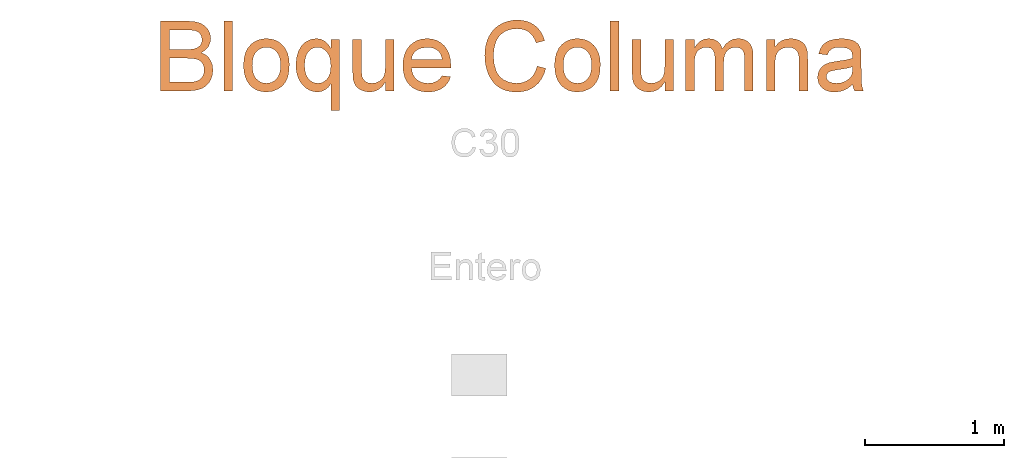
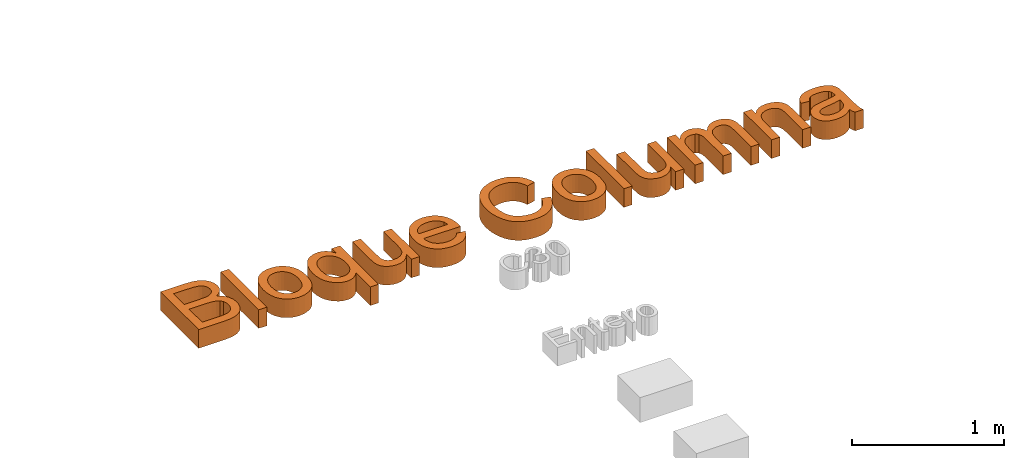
# One storey, part 4 of 8: 1 proxy.
"""IFC2X3 building model written with IfcOpenShell, lengths in metres."""

from ifc_helpers import new_model, entity, si_unit, converted_unit, derived_unit, direction, frame, frame_2d, origin, origin_2d_with_axis, place, context, subcontext, project, spatial, polyline, rectangle, outline, extrude, type_object, element, save


model = new_model("IFC2X3")

# Units and contexts
model_context = context("Model", 3, precision=1e-05, world=origin(), true_north=direction((6.12303176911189e-17, 1.0)))
body_context = subcontext(model_context, "Body", "Model", "MODEL_VIEW")
ifc_project = project(units=[si_unit("LENGTHUNIT", "METRE"), si_unit("AREAUNIT", "SQUARE_METRE"), si_unit("VOLUMEUNIT", "CUBIC_METRE"), converted_unit("PLANEANGLEUNIT", "DEGREE", entity("IfcRatioMeasure", 0.0174532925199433), si_unit("PLANEANGLEUNIT", "RADIAN"), dimensions=[0, 0, 0, 0, 0, 0, 0]), si_unit("MASSUNIT", "GRAM", prefix="KILO"), derived_unit("MASSDENSITYUNIT", [(si_unit("MASSUNIT", "GRAM", prefix="KILO"), 1), (si_unit("LENGTHUNIT", "METRE"), -3)]), derived_unit("MOMENTOFINERTIAUNIT", [(si_unit("LENGTHUNIT", "METRE"), 4)]), si_unit("TIMEUNIT", "SECOND"), si_unit("FREQUENCYUNIT", "HERTZ"), si_unit("THERMODYNAMICTEMPERATUREUNIT", "DEGREE_CELSIUS"), derived_unit("THERMALTRANSMITTANCEUNIT", [(si_unit("MASSUNIT", "GRAM", prefix="KILO"), 1), (si_unit("THERMODYNAMICTEMPERATUREUNIT", "KELVIN"), -1), (si_unit("TIMEUNIT", "SECOND"), -3)]), derived_unit("VOLUMETRICFLOWRATEUNIT", [(si_unit("LENGTHUNIT", "METRE"), 3), (si_unit("TIMEUNIT", "SECOND"), -1)]), si_unit("ELECTRICCURRENTUNIT", "AMPERE"), si_unit("ELECTRICVOLTAGEUNIT", "VOLT"), si_unit("POWERUNIT", "WATT"), si_unit("FORCEUNIT", "NEWTON", prefix="KILO"), si_unit("ILLUMINANCEUNIT", "LUX"), si_unit("LUMINOUSFLUXUNIT", "LUMEN"), si_unit("LUMINOUSINTENSITYUNIT", "CANDELA"), derived_unit("USERDEFINED", [(si_unit("MASSUNIT", "GRAM", prefix="KILO"), -1), (si_unit("LENGTHUNIT", "METRE"), -2), (si_unit("TIMEUNIT", "SECOND"), 3), (si_unit("LUMINOUSFLUXUNIT", "LUMEN"), 1)]), derived_unit("LINEARVELOCITYUNIT", [(si_unit("LENGTHUNIT", "METRE"), 1), (si_unit("TIMEUNIT", "SECOND"), -1)]), si_unit("PRESSUREUNIT", "PASCAL"), derived_unit("USERDEFINED", [(si_unit("LENGTHUNIT", "METRE"), -2), (si_unit("MASSUNIT", "GRAM", prefix="KILO"), 1), (si_unit("TIMEUNIT", "SECOND"), -2)]), derived_unit("LINEARFORCEUNIT", [(si_unit("MASSUNIT", "GRAM", prefix="KILO"), 1), (si_unit("LENGTHUNIT", "METRE"), 1), (si_unit("TIMEUNIT", "SECOND"), -2), (si_unit("LENGTHUNIT", "METRE"), -1)]), derived_unit("PLANARFORCEUNIT", [(si_unit("MASSUNIT", "GRAM", prefix="KILO"), 1), (si_unit("LENGTHUNIT", "METRE"), 1), (si_unit("TIMEUNIT", "SECOND"), -2), (si_unit("LENGTHUNIT", "METRE"), -2)])], contexts=[model_context])

# Site, building, storey
site_placement = place(None, origin())
site = spatial("IfcSite", under=ifc_project, at=site_placement, Name="Default", CompositionType="ELEMENT")
building_placement = place(site_placement, origin())
building = spatial("IfcBuilding", under=site, at=building_placement, CompositionType="ELEMENT")
storey_placement = place(building_placement, origin())
storey = spatial("IfcBuildingStorey", under=building, at=storey_placement, Name="Nivel 1", CompositionType="ELEMENT", Elevation=0.0)

# Proxy
building_element_proxy_type = type_object("IfcBuildingElementProxyType", Name="Texto de modelo:Título", PredefinedType="NOTDEFINED")
proxy_placement = place(storey_placement, origin())
element("IfcBuildingElementProxy", 1, at=proxy_placement, inside=storey, type_object=building_element_proxy_type, Name="Texto de modelo:Título", ObjectType="Texto de modelo:Título", context=body_context, shape_type="SweptSolid", body=[
    extrude(outline(polyline([(-0.292681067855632, -0.243581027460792), (-0.10248607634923, -0.243581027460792), (-0.0585088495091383, -0.241419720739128), (-0.0219812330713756, -0.234935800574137), (0.00807779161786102, -0.224236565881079), (0.0326492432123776, -0.209429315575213), (0.0527141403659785, -0.188981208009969), (0.0692535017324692, -0.161359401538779), (0.0803359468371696, -0.128878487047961), (0.0840300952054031, -0.0938530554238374), (0.0786191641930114, -0.0518225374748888), (0.0623863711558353, -0.015739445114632), (0.0504033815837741, -0.000395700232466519), (0.0360981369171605, 0.0125261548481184), (0.0194706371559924, 0.0230261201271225), (0.000520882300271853, 0.0311041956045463), (0.0303039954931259, 0.0506785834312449), (0.051472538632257, 0.0755566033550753), (0.064118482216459, 0.103990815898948), (0.0683337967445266, 0.134233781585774), (0.0633214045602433, 0.167097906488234), (0.0482842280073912, 0.198490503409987), (0.024402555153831, 0.22517727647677), (-0.00714332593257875, 0.243923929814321), (-0.0483001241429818, 0.255006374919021), (-0.101014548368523, 0.258700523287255), (-0.292681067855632, 0.258700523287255), (-0.292681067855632, -0.243581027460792)]), holes=[polyline([(-0.229895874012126, 0.0546486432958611), (-0.229895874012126, 0.195915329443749), (-0.12394585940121, 0.195915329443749), (-0.0752014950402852, 0.194275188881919), (-0.0432570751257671, 0.18935476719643), (-0.0224410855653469, 0.180019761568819), (-0.00708201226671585, 0.165135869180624), (0.00239094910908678, 0.146067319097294), (0.00554860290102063, 0.124178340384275), (0.00216102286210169, 0.10163023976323), (-0.00800171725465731, 0.083282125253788), (-0.0248476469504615, 0.069348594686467), (-0.0482847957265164, 0.0600442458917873), (-0.0751401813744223, 0.0559975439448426), (-0.115239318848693, 0.0546486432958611), (-0.229895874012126, 0.0546486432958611)]), polyline([(-0.229895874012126, -0.180795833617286), (-0.229895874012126, -0.00813655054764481), (-0.107268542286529, -0.00813655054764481), (-0.0625555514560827, -0.0102365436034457), (-0.0297067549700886, -0.0165365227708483), (-0.00651486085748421, -0.0280175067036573), (0.00922742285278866, -0.0456605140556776), (0.01824053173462, -0.0682239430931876), (0.0212449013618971, -0.0944661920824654), (0.0186850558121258, -0.117060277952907), (0.0110055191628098, -0.136772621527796), (-0.000644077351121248, -0.152882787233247), (-0.0151141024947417, -0.16467033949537), (-0.0329103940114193, -0.172901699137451), (-0.0545387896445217, -0.178343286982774), (-0.101137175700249, -0.180795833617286), (-0.229895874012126, -0.180795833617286)])]), frame((4.89267231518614, 0.973468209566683, 0.0)), (0.0, 0.0, 1.0), 0.15),
    extrude(rectangle(XDim=0.062785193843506, YDim=0.502281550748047, at=origin_2d_with_axis()), frame((5.08657649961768, 0.981027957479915, 0.0)), (0.0, 0.0, 1.0), 0.15),
    extrude(outline(polyline([(-0.0131957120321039, -0.170548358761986), (0.0307665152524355, -0.170548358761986), (0.0696520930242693, -0.16451238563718), (0.103461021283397, -0.152440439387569), (0.132193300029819, -0.134332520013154), (0.155411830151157, -0.111243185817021), (0.172679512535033, -0.0842269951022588), (0.183996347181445, -0.0532839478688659), (0.189362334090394, -0.0184140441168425), (0.186618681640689, 0.0261717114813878), (0.172415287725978, 0.0679068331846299), (0.161237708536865, 0.0869767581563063), (0.14763823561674, 0.103876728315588), (0.131616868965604, 0.118606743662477), (0.113173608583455, 0.13116680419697), (0.0915479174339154, 0.141494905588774), (0.0659792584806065, 0.149529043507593), (0.00301303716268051, 0.158715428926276), (-0.0385534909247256, 0.158529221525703), (-0.0757586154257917, 0.152292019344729), (-0.108602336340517, 0.140003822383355), (-0.137084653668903, 0.12166463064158), (-0.160392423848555, 0.0984428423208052), (-0.177712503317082, 0.0715068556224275), (-0.189044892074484, 0.0408566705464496), (-0.194389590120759, 0.00649228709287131), (-0.1938749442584, -0.0249843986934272), (-0.188105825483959, -0.0543136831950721), (-0.177082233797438, -0.0814955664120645), (-0.160804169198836, -0.106530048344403), (-0.134450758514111, -0.132057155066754), (-0.101064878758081, -0.151235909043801), (-0.060646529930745, -0.164066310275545), (-0.0131957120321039, -0.170548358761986)]), holes=[polyline([(-0.00925174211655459, -0.107887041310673), (-0.039516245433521, -0.104102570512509), (-0.0654537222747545, -0.0969584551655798), (-0.0870641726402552, -0.0864546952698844), (-0.104347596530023, -0.0725912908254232), (-0.117399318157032, -0.0562452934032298), (-0.126314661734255, -0.0382937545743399), (-0.131093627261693, -0.0187366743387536), (-0.131736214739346, 0.00242594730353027), (-0.128372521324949, 0.023071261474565), (-0.121092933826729, 0.0416882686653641), (-0.109897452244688, 0.0582769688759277), (-0.0947860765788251, 0.0728373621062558), (-0.0759345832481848, 0.0844361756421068), (-0.0535187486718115, 0.092140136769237), (-0.0275385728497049, 0.0959492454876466), (0.00200594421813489, 0.0958635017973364), (0.0329855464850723, 0.0920326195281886), (0.0594775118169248, 0.08485251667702), (0.0814818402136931, 0.0743231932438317), (0.0989985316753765, 0.0604446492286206), (0.112185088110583, 0.0441052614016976), (0.121199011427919, 0.0261934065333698), (0.126040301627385, 0.00670908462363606), (0.126708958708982, -0.0143477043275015), (0.123328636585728, -0.0352492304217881), (0.116038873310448, -0.0540230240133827), (0.104839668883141, -0.0706690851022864), (0.0897310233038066, -0.0851874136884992), (0.0707470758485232, -0.0966969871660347), (0.0479219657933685, -0.104316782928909), (0.0212556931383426, -0.108046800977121), (-0.00925174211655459, -0.107887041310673)])]), frame((5.36749551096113, 0.912196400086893, 0.0), z_axis=(0.0, 0.0, 1.0), x_axis=(0.0647659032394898, -0.997900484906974, 0.0)), (0.0, 0.0, 1.0), 0.15),
    extrude(outline(polyline([(0.113122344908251, -0.311998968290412), (0.175907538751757, -0.311998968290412), (0.175907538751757, 0.198130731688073), (0.113122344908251, 0.198130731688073), (0.113122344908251, 0.135590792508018), (0.0926742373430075, 0.166385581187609), (0.0687312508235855, 0.188381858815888), (0.0412933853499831, 0.201579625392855), (0.0103606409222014, 0.205978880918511), (-0.0296465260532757, 0.200307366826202), (-0.0662814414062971, 0.183292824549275), (-0.0827211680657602, 0.170616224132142), (-0.0970915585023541, 0.155272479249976), (-0.119624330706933, 0.11658355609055), (-0.133419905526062, 0.0697092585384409), (-0.138018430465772, 0.0171327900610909), (-0.135121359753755, -0.0259975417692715), (-0.126430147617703, -0.0642764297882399), (-0.111944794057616, -0.0977038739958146), (-0.0916652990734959, -0.126279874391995), (-0.0673774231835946, -0.149161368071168), (-0.0408669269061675, -0.165505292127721), (-0.0121338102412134, -0.175311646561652), (0.0188219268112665, -0.178580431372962), (0.046842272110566, -0.174441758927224), (0.0732684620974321, -0.162025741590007), (0.0960464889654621, -0.143355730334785), (0.113122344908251, -0.120455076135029), (0.113122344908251, -0.311998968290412)]), holes=[polyline([(-0.0752332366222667, 0.0136992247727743), (-0.0735586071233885, 0.0447967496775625), (-0.068534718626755, 0.0715026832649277), (-0.0601615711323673, 0.09381702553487), (-0.0484391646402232, 0.111739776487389), (-0.0343101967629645, 0.125500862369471), (-0.018717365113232, 0.135330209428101), (-0.00166066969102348, 0.141227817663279), (0.0168598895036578, 0.143193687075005), (0.0356103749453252, 0.141082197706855), (0.0531115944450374, 0.134747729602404), (0.0693635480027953, 0.124190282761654), (0.0843662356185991, 0.109409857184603), (0.0969470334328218, 0.0904447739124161), (0.105933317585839, 0.0673333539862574), (0.111325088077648, 0.0400755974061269), (0.113122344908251, 0.0086715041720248), (0.111417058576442, -0.0207743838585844), (0.106301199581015, -0.04620422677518), (0.0977747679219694, -0.0676180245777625), (0.0858377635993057, -0.0850157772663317), (0.0715401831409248, -0.0984817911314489), (0.0559320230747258, -0.108100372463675), (0.0390132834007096, -0.113871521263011), (0.0207839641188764, -0.115795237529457), (0.00174223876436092, -0.113771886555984), (-0.0158969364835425, -0.107701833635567), (-0.032133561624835, -0.0975850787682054), (-0.0469676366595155, -0.0834216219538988), (-0.0593338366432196, -0.0652114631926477), (-0.0681668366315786, -0.0429546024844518), (-0.0734666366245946, -0.0166510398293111), (-0.0752332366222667, 0.0136992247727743)])]), frame((5.71118018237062, 0.900619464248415, 0.0)), (0.0, 0.0, 1.0), 0.15),
    extrude(outline(polyline([(0.099374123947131, -0.10269783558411), (0.162159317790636, -0.10269783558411), (0.162159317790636, 0.266165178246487), (0.099374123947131, 0.266165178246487), (0.099374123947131, 0.0742534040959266), (0.0968296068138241, 0.0338323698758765), (0.0891960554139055, 0.00429451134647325), (0.0754464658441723, -0.0172725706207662), (0.0545538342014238, -0.0337812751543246), (0.0292159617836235, -0.0442659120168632), (0.00213064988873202, -0.0477607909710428), (-0.0234831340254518, -0.0443425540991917), (-0.044651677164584, -0.0340878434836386), (-0.060332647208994, -0.0178550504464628), (-0.0694837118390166, 0.00349743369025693), (-0.0732851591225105, 0.0675089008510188), (-0.0732851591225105, 0.266165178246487), (-0.136070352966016, 0.266165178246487), (-0.136070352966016, 0.0379557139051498), (-0.132391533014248, -0.0204148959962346), (-0.125018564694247, -0.0456454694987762), (-0.113690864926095, -0.0666454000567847), (-0.0968602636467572, -0.083935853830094), (-0.072978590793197, -0.0980379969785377), (-0.0445137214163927, -0.107418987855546), (-0.0139335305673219, -0.110545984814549), (0.0200035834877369, -0.106093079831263), (0.0502005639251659, -0.0927343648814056), (0.0766574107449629, -0.0704698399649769), (0.099374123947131, -0.0392995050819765), (0.099374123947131, -0.10269783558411)])), frame((6.11733586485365, 0.832585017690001, 0.0)), (0.0, 0.0, 1.0), 0.15),
    extrude(outline(polyline([(-0.0285819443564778, -0.11250239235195), (-0.0578029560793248, -0.167249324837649), (-0.0322328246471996, -0.173818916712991), (-0.00713898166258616, -0.176000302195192), (0.0174785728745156, -0.173793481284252), (0.0416198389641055, -0.16719845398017), (0.0648944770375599, -0.156182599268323), (0.0869121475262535, -0.14071329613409), (0.107672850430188, -0.120790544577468), (0.127176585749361, -0.0964143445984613), (0.147184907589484, -0.0628437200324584), (0.159666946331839, -0.0291392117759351), (0.164622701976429, 0.00469918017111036), (0.16205217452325, 0.0386714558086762), (0.151934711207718, 0.0717021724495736), (0.134249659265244, 0.102715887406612), (0.10899701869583, 0.131712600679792), (0.0761767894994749, 0.158692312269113), (0.0386809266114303, 0.181565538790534), (0.00190165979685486, 0.196468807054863), (-0.0341610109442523, 0.203402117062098), (-0.0695070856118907, 0.202365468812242), (-0.102928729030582, 0.194014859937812), (-0.133218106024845, 0.179006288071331), (-0.160375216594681, 0.157339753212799), (-0.184400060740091, 0.129015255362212), (-0.202515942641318, 0.0979595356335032), (-0.213436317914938, 0.0659991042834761), (-0.217161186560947, 0.0331339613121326), (-0.213690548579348, -0.00063589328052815), (-0.202780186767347, -0.0339331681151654), (-0.184185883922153, -0.0653805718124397), (-0.157907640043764, -0.0949781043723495), (-0.12394545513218, -0.122725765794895), (-0.10993105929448, -0.132218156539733), (0.0533469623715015, 0.0979071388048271), (0.0716760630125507, 0.080443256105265), (0.0853873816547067, 0.0618484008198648), (0.0944809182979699, 0.0421225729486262), (0.0989566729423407, 0.0212657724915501), (0.0991008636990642, 5.22501907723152e-05), (0.0951997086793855, -0.020743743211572), (0.0872532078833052, -0.0411222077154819), (0.0752613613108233, -0.0610831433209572), (0.0532495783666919, -0.0864379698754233), (0.028938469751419, -0.103695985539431), (0.00182798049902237, -0.11250239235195), (-0.0285819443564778, -0.11250239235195)]), holes=[polyline([(0.00214133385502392, 0.134238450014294), (-0.125018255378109, -0.0449812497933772), (-0.147157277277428, -0.0188609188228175), (-0.156876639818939, 0.00844625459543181), (-0.157470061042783, 0.0298610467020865), (-0.153697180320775, 0.0510722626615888), (-0.145557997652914, 0.0720799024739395), (-0.133052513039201, 0.0928839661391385), (-0.103774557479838, 0.124003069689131), (-0.0871344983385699, 0.134773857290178), (-0.0691603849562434, 0.142352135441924), (-0.050723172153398, 0.146331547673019), (-0.0326938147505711, 0.146305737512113), (-0.015072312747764, 0.142274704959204), (0.00214133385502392, 0.134238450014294)])]), frame((6.51578533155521, 0.881551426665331, 0.0), z_axis=(0.0, 0.0, -1.0), x_axis=(-0.578660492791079, -0.81556853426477, 0.0)), (0.0, 0.0, -1.0), 0.15),
    extrude(outline(polyline([(0.0277342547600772, -0.18675222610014), (0.0253192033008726, -0.251545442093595), (0.0662863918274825, -0.250788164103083), (0.103708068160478, -0.244672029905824), (0.137584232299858, -0.233197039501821), (0.167914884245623, -0.216363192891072), (0.194290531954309, -0.194632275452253), (0.216301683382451, -0.168466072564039), (0.233948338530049, -0.13786458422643), (0.247230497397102, -0.102827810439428), (0.256187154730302, -0.0655465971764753), (0.260121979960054, -0.0306797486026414), (0.259034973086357, 0.00177273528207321), (0.252926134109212, 0.0318108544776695), (0.24210726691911, 0.0597295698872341), (0.226890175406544, 0.0858238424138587), (0.207274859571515, 0.110093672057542), (0.183261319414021, 0.132539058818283), (0.156028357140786, 0.152660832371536), (0.126754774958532, 0.169959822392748), (0.0954405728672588, 0.184436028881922), (0.0620857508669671, 0.196089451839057), (0.0252628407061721, 0.205121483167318), (-0.0102269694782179, 0.209877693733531), (-0.044383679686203, 0.210358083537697), (-0.0772072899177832, 0.206562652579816), (-0.108133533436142, 0.198627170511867), (-0.136598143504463, 0.186687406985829), (-0.162601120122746, 0.170743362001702), (-0.186142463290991, 0.150795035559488), (-0.206839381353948, 0.127644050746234), (-0.224309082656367, 0.102092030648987), (-0.238551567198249, 0.0741389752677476), (-0.249566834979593, 0.0437848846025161), (-0.257477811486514, 0.00867123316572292), (-0.259851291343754, -0.0249814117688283), (-0.256687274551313, -0.0571730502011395), (-0.24798576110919, -0.0879036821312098), (-0.234053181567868, -0.116618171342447), (-0.215195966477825, -0.142761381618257), (-0.191414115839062, -0.166333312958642), (-0.162707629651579, -0.1873339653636), (-0.130442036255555, -0.131434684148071), (-0.151281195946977, -0.1149093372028), (-0.168106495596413, -0.0975006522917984), (-0.180917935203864, -0.0792086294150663), (-0.18971551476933, -0.0600332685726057), (-0.194744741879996, -0.0398054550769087), (-0.196251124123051, -0.0183560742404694), (-0.194234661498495, 0.00431487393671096), (-0.188695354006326, 0.0282073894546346), (-0.1790441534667, 0.0547214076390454), (-0.166862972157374, 0.0779705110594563), (-0.152151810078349, 0.0979546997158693), (-0.134910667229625, 0.114673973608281), (-0.115721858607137, 0.128025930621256), (-0.0951676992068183, 0.137908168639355), (-0.07324818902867, 0.144320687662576), (-0.0499633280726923, 0.14726348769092), (-0.0024948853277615, 0.145643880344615), (0.0440402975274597, 0.135953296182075), (0.0982756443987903, 0.114851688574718), (0.1422846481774, 0.0869125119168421), (0.15995690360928, 0.0703870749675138), (0.174077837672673, 0.0521687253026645), (0.184647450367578, 0.0322574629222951), (0.191665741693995, 0.0106532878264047), (0.196203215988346, -0.0341872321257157), (0.188845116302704, -0.0789062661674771), (0.17918522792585, -0.104510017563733), (0.166417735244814, -0.126908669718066), (0.150542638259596, -0.146102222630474), (0.131559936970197, -0.162090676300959), (0.109668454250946, -0.17442145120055), (0.0850670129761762, -0.182641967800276), (0.0577556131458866, -0.18675222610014), (0.0277342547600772, -0.18675222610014)])), frame((7.13654516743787, 0.988338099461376, 0.0), z_axis=(0.0, 0.0, -1.0), x_axis=(-0.285543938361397, -0.958365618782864, 0.0)), (0.0, 0.0, -1.0), 0.15),
    extrude(outline(polyline([(-0.0131957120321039, -0.170548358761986), (0.0307665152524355, -0.170548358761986), (0.0696520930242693, -0.16451238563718), (0.103461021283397, -0.152440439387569), (0.132193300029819, -0.134332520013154), (0.155411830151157, -0.111243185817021), (0.172679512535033, -0.0842269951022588), (0.183996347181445, -0.0532839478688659), (0.189362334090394, -0.0184140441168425), (0.186618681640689, 0.0261717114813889), (0.172415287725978, 0.0679068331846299), (0.161237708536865, 0.0869767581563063), (0.14763823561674, 0.103876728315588), (0.131616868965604, 0.118606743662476), (0.113173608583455, 0.13116680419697), (0.0915479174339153, 0.141494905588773), (0.0659792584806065, 0.149529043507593), (0.00301303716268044, 0.158715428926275), (-0.0385534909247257, 0.158529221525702), (-0.0757586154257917, 0.152292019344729), (-0.108602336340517, 0.140003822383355), (-0.137084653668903, 0.12166463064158), (-0.160392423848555, 0.0984428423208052), (-0.177712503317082, 0.0715068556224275), (-0.189044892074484, 0.0408566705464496), (-0.194389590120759, 0.00649228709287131), (-0.1938749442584, -0.0249843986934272), (-0.188105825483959, -0.0543136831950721), (-0.177082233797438, -0.0814955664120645), (-0.160804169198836, -0.106530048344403), (-0.134450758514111, -0.132057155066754), (-0.101064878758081, -0.151235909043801), (-0.060646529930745, -0.164066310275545), (-0.0131957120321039, -0.170548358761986)]), holes=[polyline([(-0.00925174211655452, -0.107887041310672), (-0.039516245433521, -0.104102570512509), (-0.0654537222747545, -0.0969584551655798), (-0.0870641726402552, -0.0864546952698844), (-0.104347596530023, -0.0725912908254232), (-0.117399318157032, -0.0562452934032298), (-0.126314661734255, -0.0382937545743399), (-0.131093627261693, -0.0187366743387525), (-0.131736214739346, 0.00242594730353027), (-0.128372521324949, 0.023071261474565), (-0.121092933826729, 0.0416882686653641), (-0.109897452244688, 0.0582769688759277), (-0.0947860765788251, 0.0728373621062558), (-0.0759345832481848, 0.0844361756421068), (-0.0535187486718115, 0.092140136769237), (-0.0275385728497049, 0.0959492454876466), (0.00200594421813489, 0.0958635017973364), (0.0329855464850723, 0.0920326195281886), (0.0594775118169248, 0.08485251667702), (0.081481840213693, 0.0743231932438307), (0.0989985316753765, 0.0604446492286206), (0.112185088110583, 0.0441052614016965), (0.121199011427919, 0.0261934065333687), (0.126040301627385, 0.00670908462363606), (0.126708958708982, -0.0143477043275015), (0.123328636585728, -0.035249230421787), (0.116038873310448, -0.0540230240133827), (0.104839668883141, -0.0706690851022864), (0.0897310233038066, -0.0851874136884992), (0.0707470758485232, -0.0966969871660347), (0.0479219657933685, -0.104316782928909), (0.0212556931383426, -0.108046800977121), (-0.00925174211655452, -0.107887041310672)])]), frame((7.60421804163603, 0.912196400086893, 0.0), z_axis=(0.0, 0.0, 1.0), x_axis=(0.0647659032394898, -0.997900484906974, 0.0)), (0.0, 0.0, 1.0), 0.15),
    extrude(rectangle(XDim=0.0627851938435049, YDim=0.502281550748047, at=frame_2d((-5.41233724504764e-16, 0.0), x_axis=(1.0, 0.0))), frame((7.86482132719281, 0.981027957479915, 0.0)), (0.0, 0.0, 1.0), 0.15),
    extrude(outline(polyline([(0.0993741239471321, -0.10269783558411), (0.162159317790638, -0.10269783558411), (0.162159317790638, 0.266165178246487), (0.0993741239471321, 0.266165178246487), (0.0993741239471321, 0.0742534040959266), (0.0968296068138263, 0.0338323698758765), (0.0891960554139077, 0.00429451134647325), (0.0754464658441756, -0.0172725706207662), (0.054553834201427, -0.0337812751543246), (0.0292159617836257, -0.0442659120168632), (0.00213064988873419, -0.0477607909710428), (-0.0234831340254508, -0.0443425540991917), (-0.0446516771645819, -0.0340878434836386), (-0.0603326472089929, -0.0178550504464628), (-0.0694837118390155, 0.00349743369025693), (-0.0732851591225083, 0.0675089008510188), (-0.0732851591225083, 0.266165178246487), (-0.136070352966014, 0.266165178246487), (-0.136070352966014, 0.0379557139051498), (-0.132391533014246, -0.0204148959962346), (-0.125018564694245, -0.0456454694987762), (-0.113690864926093, -0.0666454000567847), (-0.096860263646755, -0.083935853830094), (-0.0729785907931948, -0.0980379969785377), (-0.0445137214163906, -0.107418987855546), (-0.0139335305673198, -0.110545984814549), (0.0200035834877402, -0.106093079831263), (0.0502005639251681, -0.0927343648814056), (0.0766574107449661, -0.0704698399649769), (0.0993741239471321, -0.0392995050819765), (0.0993741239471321, -0.10269783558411)])), frame((8.12646206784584, 0.832585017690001, 0.0)), (0.0, 0.0, 1.0), 0.15),
    extrude(outline(polyline([(-0.26520740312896, -0.274598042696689), (-0.202422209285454, -0.274598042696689), (-0.202422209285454, -0.0885723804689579), (-0.200030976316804, -0.0453769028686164), (-0.192857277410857, -0.013647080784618), (-0.180349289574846, 0.00922291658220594), (-0.161955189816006, 0.0258389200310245), (-0.13966767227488, 0.0359556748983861), (-0.115479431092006, 0.03932792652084), (-0.0870145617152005, 0.0342695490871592), (-0.0762655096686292, 0.027946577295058), (-0.0678387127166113, 0.0190944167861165), (-0.0569402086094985, -0.00622812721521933), (-0.0533073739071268, -0.0417287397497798), (-0.0533073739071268, -0.274598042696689), (0.00947781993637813, -0.274598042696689), (0.00947781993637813, -0.0663768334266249), (0.011014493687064, -0.0405561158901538), (0.0156245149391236, -0.0185215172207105), (0.023307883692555, -0.000273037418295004), (0.0340645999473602, 0.0141893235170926), (0.0471435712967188, 0.0251874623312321), (0.0617937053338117, 0.0330432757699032), (0.0780150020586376, 0.0377567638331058), (0.0958074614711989, 0.03932792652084), (0.115075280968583, 0.0368753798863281), (0.131675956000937, 0.0295177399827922), (0.144582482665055, 0.0181593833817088), (0.152767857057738, 0.00370468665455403), (0.157136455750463, -0.0174025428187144), (0.158592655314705, -0.0487184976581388), (0.158592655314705, -0.274598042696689), (0.221377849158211, -0.274598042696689), (0.221377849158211, -0.0217404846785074), (0.219580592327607, 0.00778587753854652), (0.214188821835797, 0.0332118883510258), (0.205202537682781, 0.0545375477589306), (0.192621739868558, 0.0717628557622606), (0.176707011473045, 0.0850410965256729), (0.15771893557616, 0.0945255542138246), (0.135657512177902, 0.100216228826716), (0.110522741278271, 0.102113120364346), (0.0779805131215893, 0.0975529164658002), (0.0486572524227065, 0.0838723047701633), (0.0225529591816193, 0.0610712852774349), (-0.000332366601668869, 0.0291498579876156), (-0.0140053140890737, 0.0598833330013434), (-0.0349132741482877, 0.08292194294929), (-0.0629029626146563, 0.0973153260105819), (-0.0978210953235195, 0.102113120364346), (-0.130409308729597, 0.0974072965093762), (-0.159257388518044, 0.0832898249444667), (-0.183537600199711, 0.0614468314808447), (-0.202422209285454, 0.033564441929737), (-0.202422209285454, 0.0942649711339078), (-0.26520740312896, 0.0942649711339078), (-0.26520740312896, -0.274598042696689)])), frame((8.64015843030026, 1.00448522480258, 0.0)), (0.0, 0.0, 1.0), 0.15),
    extrude(outline(polyline([(-0.160354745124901, -0.269066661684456), (-0.0975695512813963, -0.269066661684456), (-0.0975695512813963, -0.0733534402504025), (-0.0957799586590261, -0.0416619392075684), (-0.0904111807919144, -0.0155039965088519), (-0.0814632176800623, 0.00512038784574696), (-0.0689360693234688, 0.0202112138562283), (-0.0539410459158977, 0.0309947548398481), (-0.0375894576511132, 0.038697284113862), (-0.0198813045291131, 0.0433188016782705), (-0.000816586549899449, 0.0448593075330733), (0.0223446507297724, 0.0421155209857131), (0.0422869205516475, 0.0338841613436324), (0.0578452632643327, 0.0210542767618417), (0.067854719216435, 0.00451491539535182), (0.0732809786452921, -0.0185696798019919), (0.0750897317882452, -0.0510352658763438), (0.0750897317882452, -0.269066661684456), (0.137874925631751, -0.269066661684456), (0.137874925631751, -0.0425739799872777), (0.13456398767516, 0.0181265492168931), (0.127160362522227, 0.043035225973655), (0.11574069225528, 0.0642957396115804), (0.0989100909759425, 0.0818621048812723), (0.0752736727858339, 0.0956883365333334), (0.0469314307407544, 0.104655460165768), (0.0159833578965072, 0.107644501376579), (-0.0189807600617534, 0.10393502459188), (-0.0495609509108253, 0.0928065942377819), (-0.0757572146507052, 0.0742592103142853), (-0.0975695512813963, 0.0482928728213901), (-0.0975695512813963, 0.099796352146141), (-0.160354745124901, 0.099796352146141), (-0.160354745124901, -0.269066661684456)])), frame((9.11606881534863, 0.998953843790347, 0.0)), (0.0, 0.0, 1.0), 0.15),
    extrude(outline(polyline([(0.160198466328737, 0.0633183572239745), (0.186081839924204, 0.0633183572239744), (0.209576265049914, 0.0683751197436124), (0.22325926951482, 0.129651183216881), (0.196354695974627, 0.127680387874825), (0.169011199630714, 0.128948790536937), (0.0618611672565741, 0.149608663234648), (-0.0143748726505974, 0.166632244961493), (-0.0686595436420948, 0.175612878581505), (-0.0932733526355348, 0.173350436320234), (-0.114444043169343, 0.166109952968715), (-0.133347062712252, 0.152284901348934), (-0.151157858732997, 0.130268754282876), (-0.166658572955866, 0.0992555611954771), (-0.178631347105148, 0.0584393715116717), (-0.185193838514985, 0.0145617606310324), (-0.184356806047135, -0.0251569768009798), (-0.176301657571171, -0.0592785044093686), (-0.161209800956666, -0.0863644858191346), (-0.138424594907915, -0.10811643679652), (-0.10728939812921, -0.126235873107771), (-0.0859468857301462, -0.0666701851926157), (-0.108704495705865, -0.0488037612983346), (-0.121173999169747, -0.0277690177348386), (-0.124323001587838, -0.000302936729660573), (-0.119119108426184, 0.0368574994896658), (-0.105885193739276, 0.0753031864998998), (-0.0968791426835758, 0.0896105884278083), (-0.086280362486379, 0.100641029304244), (-0.0655621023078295, 0.109301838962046), (-0.0372732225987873, 0.10741397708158), (-0.0237098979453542, 0.104008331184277), (-0.022081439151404, 0.0578462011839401), (-0.0263777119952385, -0.00697087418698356), (-0.0290013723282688, -0.062046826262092), (-0.0256182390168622, -0.0865653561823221), (-0.018475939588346, -0.109441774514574), (-0.0068889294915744, -0.130138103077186), (0.00982833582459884, -0.148116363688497), (0.0309323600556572, -0.162063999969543), (0.0556796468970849, -0.170668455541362), (0.0777227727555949, -0.173552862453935), (0.0986131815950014, -0.172104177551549), (0.118350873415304, -0.166322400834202), (0.136935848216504, -0.156207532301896), (0.153501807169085, -0.141840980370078), (0.167182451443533, -0.123304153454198), (0.177977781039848, -0.100597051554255), (0.18588779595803, -0.0737196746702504), (0.190445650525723, -0.0391006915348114), (0.188458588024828, -0.00537611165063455), (0.17876379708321, 0.02843619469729), (0.160198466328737, 0.0633183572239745)]), holes=[polyline([(0.0376463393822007, 0.0906843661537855), (0.0549197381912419, 0.086450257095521), (0.0819049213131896, 0.0778800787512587), (0.100148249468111, 0.0661732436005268), (0.115770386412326, 0.0454711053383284), (0.126707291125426, 0.0182763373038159), (0.131208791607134, -0.0132611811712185), (0.127524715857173, -0.046991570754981), (0.117271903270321, -0.0772919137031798), (0.102280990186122, -0.0975818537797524), (0.084294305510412, -0.107936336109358), (0.0650541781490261, -0.108430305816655), (0.0531649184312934, -0.103576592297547), (0.0433479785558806, -0.0947879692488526), (0.0362512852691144, -0.0825389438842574), (0.032522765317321, -0.0673040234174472), (0.0343615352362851, -0.0123669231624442), (0.0386557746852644, 0.0472362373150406), (0.0376463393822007, 0.0906843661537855)])]), frame((9.47900881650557, 0.919524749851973, 0.0), z_axis=(0.0, 0.0, 1.0), x_axis=(0.217933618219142, -0.975963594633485, 0.0)), (0.0, 0.0, 1.0), 0.15),
])

save(model, "model.ifc")
